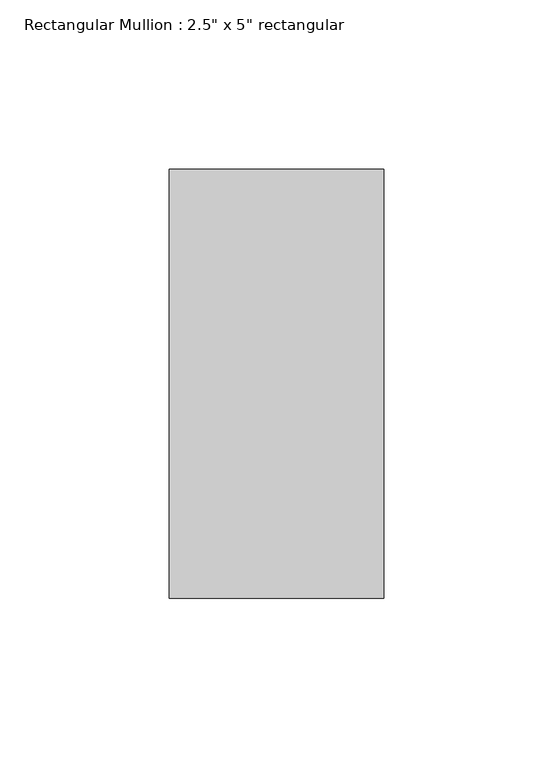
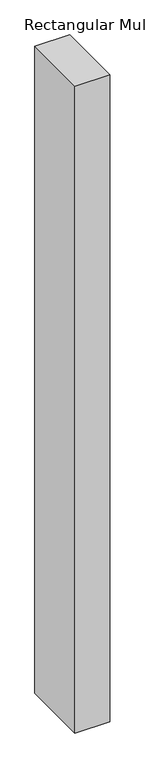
"""IFC4 building model written with IfcOpenShell, lengths in millimetres: member geometry."""

from ifc_helpers import new_model, si_unit, frame, origin, place, context, project, spatial, polyline, outline, extrude, source, transform, mapped, element, save


def member_ba1b3d85(model_context):
    return source(origin(), model_context, "Body", "SweptSolid", [
        extrude(outline(polyline([(31.75, 63.5), (31.75, -63.5), (-31.75, -63.5), (-31.75, 63.5), (31.75, 63.5)])), frame((0.0, 0.0, -1250.95), z_axis=(0.0, 0.0, 1.0), x_axis=(1.0, 0.0, 0.0)), (0.0, 0.0, 1.0), 1250.95),
    ])


if __name__ == "__main__":
    model = new_model("IFC4")
    model_context = context("Model", 3, world=origin())
    ifc_project = project(units=[si_unit("LENGTHUNIT", "METRE", prefix="MILLI")], contexts=[model_context])
    site = spatial("IfcSite", under=ifc_project)
    building = spatial("IfcBuilding", under=site)
    placement = place(None, origin())
    member_shape = member_ba1b3d85(model_context)
    element("IfcMember", 1, ObjectType="Rectangular Mullion : 2.5\" x 5\" rectangular", at=placement, inside=building, context=model_context, shape_type="MappedRepresentation", body=[
        mapped(member_shape, transform((0.0, 0.0, 0.0), x_axis=(1.0, 0.0, 0.0), y_axis=(0.0, 1.0, 0.0), z_axis=(0.0, 0.0, 1.0))),
    ])
    save(model, "model.ifc")
